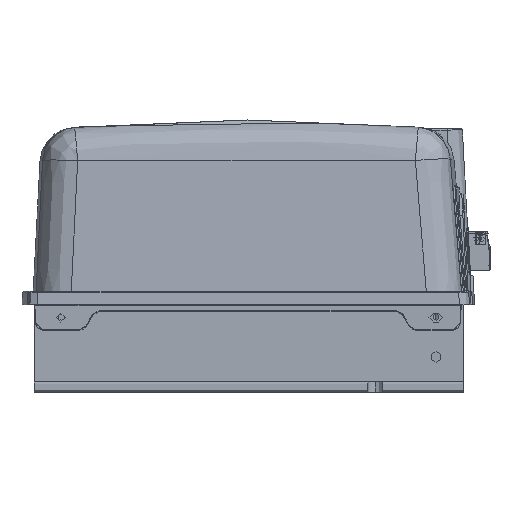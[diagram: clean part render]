
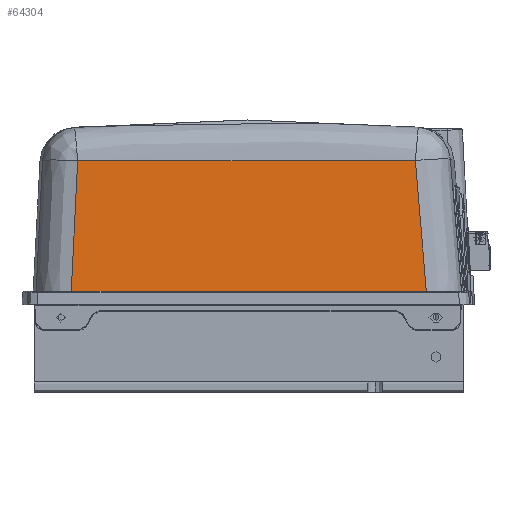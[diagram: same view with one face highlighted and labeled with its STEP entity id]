
A CAD part, left-side view. The second image highlights one B-rep face of the part: STEP entity #64304.
In plain terms, the highlighted planar face has unit normal (-0.999, 0, 0.052).
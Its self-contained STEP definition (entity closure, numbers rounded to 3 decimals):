
#437 = CARTESIAN_POINT ( 'NONE',  ( -304.176, 58.072, 46.358 ) ) ;
#1426 = CARTESIAN_POINT ( 'NONE',  ( -304.157, 83.042, 46.733 ) ) ;
#3373 = CARTESIAN_POINT ( 'NONE',  ( -304.191, 50.446, 46.083 ) ) ;
#4338 = CARTESIAN_POINT ( 'NONE',  ( -304.157, 83.005, 46.733 ) ) ;
#9009 = ORIENTED_EDGE ( 'NONE', *, *, #87084, .F. ) ;
#11019 = CARTESIAN_POINT ( 'NONE',  ( -304.303, 15.981, 43.933 ) ) ;
#11305 = DIRECTION ( 'NONE',  ( -0.052, -0.083, -0.995 ) ) ;
#16268 = CARTESIAN_POINT ( 'NONE',  ( -304.157, 87.897, 46.716 ) ) ;
#16631 = VECTOR ( 'NONE', #64173, 1000. ) ;
#18246 = CARTESIAN_POINT ( 'NONE',  ( -304.157, 80.558, 46.733 ) ) ;
#20801 = VERTEX_POINT ( 'NONE', #158833 ) ;
#31138 = CARTESIAN_POINT ( 'NONE',  ( -304.168, 102.574, 46.513 ) ) ;
#33084 = CARTESIAN_POINT ( 'NONE',  ( -304.157, 83.08, 46.733 ) ) ;
#38665 = CARTESIAN_POINT ( 'NONE',  ( -307.025, 11.637, -8. ) ) ;
#38825 = LINE ( 'NONE', #112244, #153033 ) ;
#39559 = EDGE_CURVE ( 'NONE', #20801, #114464, #159065, .T. ) ;
#45387 = LINE ( 'NONE', #140539, #16631 ) ;
#46985 = CARTESIAN_POINT ( 'NONE',  ( -304.184, 53.9, 46.216 ) ) ;
#47960 = CARTESIAN_POINT ( 'NONE',  ( -304.162, 68.821, 46.619 ) ) ;
#48930 = CARTESIAN_POINT ( 'NONE',  ( -304.193, 49.519, 46.045 ) ) ;
#49908 = CARTESIAN_POINT ( 'NONE',  ( -304.258, 138.88, 44.804 ) ) ;
#53782 = CARTESIAN_POINT ( 'NONE',  ( -304.291, 18.776, 44.169 ) ) ;
#59371 = ORIENTED_EDGE ( 'NONE', *, *, #182985, .F. ) ;
#60882 = CARTESIAN_POINT ( 'NONE',  ( -304.187, 52.262, 46.155 ) ) ;
#61317 = VERTEX_POINT ( 'NONE', #85467 ) ;
#61866 = CARTESIAN_POINT ( 'NONE',  ( -304.16, 92.789, 46.674 ) ) ;
#62852 = CARTESIAN_POINT ( 'NONE',  ( -304.157, 83.023, 46.733 ) ) ;
#63814 = CARTESIAN_POINT ( 'NONE',  ( -304.192, 49.948, 46.063 ) ) ;
#63944 = DIRECTION ( 'NONE',  ( 0.052, 0., 0.999 ) ) ;
#64173 = DIRECTION ( 'NONE',  ( 0., 1., 0. ) ) ;
#64304 = ADVANCED_FACE ( 'NONE', ( #124454 ), #64906, .T. ) ;
#64906 = PLANE ( 'NONE',  #87530 ) ;
#66720 = CARTESIAN_POINT ( 'NONE',  ( -304.233, 34.112, 45.272 ) ) ;
#69644 = CARTESIAN_POINT ( 'NONE',  ( -304.303, 15.981, 43.933 ) ) ;
#75686 = VERTEX_POINT ( 'NONE', #38665 ) ;
#75776 = CARTESIAN_POINT ( 'NONE',  ( -304.157, 83.31, 46.732 ) ) ;
#77613 = ORIENTED_EDGE ( 'NONE', *, *, #39559, .F. ) ;
#78714 = CARTESIAN_POINT ( 'NONE',  ( -304.158, 74.415, 46.696 ) ) ;
#85467 = CARTESIAN_POINT ( 'NONE',  ( -307.025, 152.592, -8. ) ) ;
#85653 = LINE ( 'NONE', #147173, #126190 ) ;
#87084 = EDGE_CURVE ( 'NONE', #114464, #75686, #85653, .T. ) ;
#87530 = AXIS2_PLACEMENT_3D ( 'NONE', #107594, #123478, #63944 ) ;
#92607 = CARTESIAN_POINT ( 'NONE',  ( -304.157, 85.45, 46.728 ) ) ;
#93550 = EDGE_CURVE ( 'NONE', #75686, #61317, #45387, .T. ) ;
#94570 = CARTESIAN_POINT ( 'NONE',  ( -304.193, 49.464, 46.043 ) ) ;
#96491 = CARTESIAN_POINT ( 'NONE',  ( -304.273, 22.96, 44.51 ) ) ;
#106492 = CARTESIAN_POINT ( 'NONE',  ( -304.157, 84.227, 46.731 ) ) ;
#107594 = CARTESIAN_POINT ( 'NONE',  ( -307.13, 165.835, -10. ) ) ;
#109416 = CARTESIAN_POINT ( 'NONE',  ( -304.193, 49.484, 46.044 ) ) ;
#110323 = DIRECTION ( 'NONE',  ( 0.052, -0.049, 0.997 ) ) ;
#112244 = CARTESIAN_POINT ( 'NONE',  ( -304.308, 150.024, 43.85 ) ) ;
#114464 = VERTEX_POINT ( 'NONE', #11019 ) ;
#115248 = CARTESIAN_POINT ( 'NONE',  ( -304.211, 41.082, 45.692 ) ) ;
#119991 = ORIENTED_EDGE ( 'NONE', *, *, #93550, .F. ) ;
#121389 = CARTESIAN_POINT ( 'NONE',  ( -304.192, 49.698, 46.053 ) ) ;
#122370 = CARTESIAN_POINT ( 'NONE',  ( -304.156, 82.006, 46.733 ) ) ;
#123478 = DIRECTION ( 'NONE',  ( -0.999, 0., 0.052 ) ) ;
#124325 = CARTESIAN_POINT ( 'NONE',  ( -304.192, 49.573, 46.047 ) ) ;
#124454 = FACE_OUTER_BOUND ( 'NONE', #187698, .T. ) ;
#125285 = CARTESIAN_POINT ( 'NONE',  ( -304.201, 122.136, 45.879 ) ) ;
#126190 = VECTOR ( 'NONE', #11305, 1000. ) ;
#136289 = CARTESIAN_POINT ( 'NONE',  ( -304.166, 65.575, 46.56 ) ) ;
#137268 = CARTESIAN_POINT ( 'NONE',  ( -304.157, 83.616, 46.732 ) ) ;
#139221 = CARTESIAN_POINT ( 'NONE',  ( -304.188, 51.432, 46.123 ) ) ;
#140188 = CARTESIAN_POINT ( 'NONE',  ( -304.157, 83.015, 46.733 ) ) ;
#140539 = CARTESIAN_POINT ( 'NONE',  ( -307.025, -1380.8, -8. ) ) ;
#147173 = CARTESIAN_POINT ( 'NONE',  ( -307.025, 11.637, -8. ) ) ;
#153033 = VECTOR ( 'NONE', #110323, 1000. ) ;
#153113 = CARTESIAN_POINT ( 'NONE',  ( -304.182, 54.964, 46.254 ) ) ;
#158833 = CARTESIAN_POINT ( 'NONE',  ( -304.308, 150.024, 43.85 ) ) ;
#159065 = B_SPLINE_CURVE_WITH_KNOTS ( 'NONE', 3,
 ( #181926, #49908, #125285, #31138, #61866, #16268, #92607, #106492, #137268, #75776, #185820, #33084, #1426, #62852, #140188, #170942, #4338, #122370, #18246, #182909, #78714, #47960, #136289, #169968, #437, #153113, #46985, #60882, #139221, #3373, #63814, #121389, #124325, #48930, #109416, #94570, #115248, #66720, #96491, #53782, #69644 ),
 .UNSPECIFIED., .F., .F.,
 ( 4, 1, 1, 1, 1, 1, 1, 1, 1, 1, 1, 1, 1, 2, 2, 2, 2, 2, 2, 2, 1, 1, 1, 1, 1, 2, 2, 2, 4 ),
 ( 0., 0.25, 0.375, 0.438, 0.469, 0.484, 0.492, 0.496, 0.498, 0.499, 0.5, 0.5, 0.5, 0.5, 0.5, 0.563, 0.625, 0.688, 0.719, 0.734, 0.742, 0.746, 0.748, 0.749, 0.75, 0.75, 0.75, 0.875, 1. ),
 .UNSPECIFIED. ) ;
#169968 = CARTESIAN_POINT ( 'NONE',  ( -304.173, 60.032, 46.416 ) ) ;
#170942 = CARTESIAN_POINT ( 'NONE',  ( -304.157, 83.009, 46.733 ) ) ;
#181926 = CARTESIAN_POINT ( 'NONE',  ( -304.308, 150.024, 43.85 ) ) ;
#182909 = CARTESIAN_POINT ( 'NONE',  ( -304.157, 76.762, 46.714 ) ) ;
#182985 = EDGE_CURVE ( 'NONE', #61317, #20801, #38825, .T. ) ;
#185820 = CARTESIAN_POINT ( 'NONE',  ( -304.157, 83.157, 46.732 ) ) ;
#187698 = EDGE_LOOP ( 'NONE', ( #9009, #77613, #59371, #119991 ) ) ;
